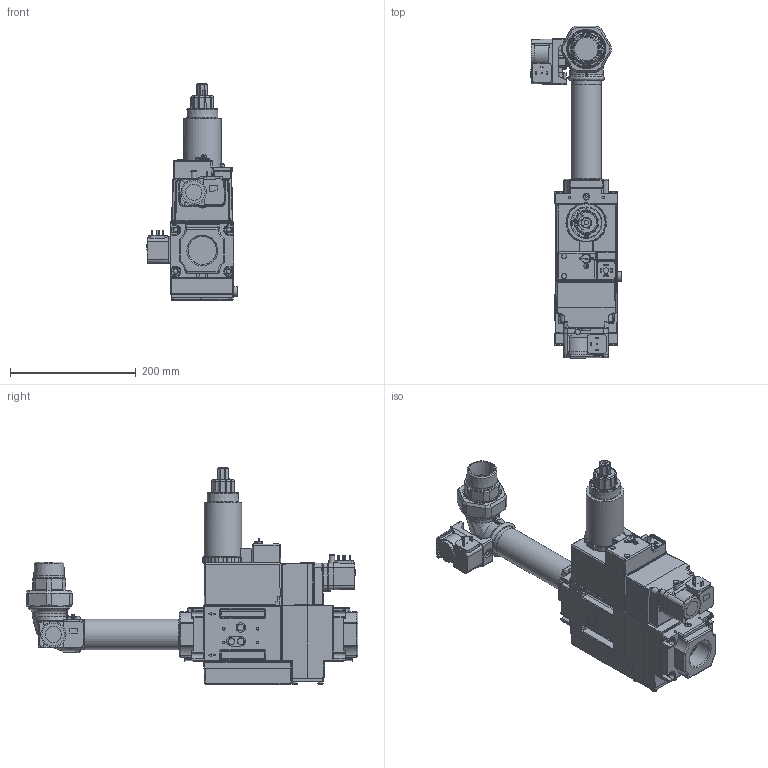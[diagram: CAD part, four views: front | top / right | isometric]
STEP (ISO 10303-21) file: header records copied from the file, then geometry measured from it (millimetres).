
FILE_DESCRIPTION (( 'STEP AP214' ), '1' );
FILE_NAME ('19990708.STEP', '2026-10-09T12:02:30', ( '' ), ( '' ), 'SwSTEP 2.0', 'SolidWorks 2025', '' );
FILE_SCHEMA (( 'AUTOMOTIVE_DESIGN' ));
Length unit declared in the file: millimetre
Products named in the file (1): 19990708
Bounding box: 144.2 x 528.35 x 344 mm (x, y, z)
Volume: 4800093.7 mm3; surface area: 499591.9 mm2
Topology: 14 solids, 14 shells, 2558 faces, 6342 edges, 3902 vertices
Faces by surface type: plane 1010, cylinder 687, bspline 596, cone 176, torus 65, sphere 24
Full cylindrical faces by diameter (mm): 0.7 x2, 1.2 x4, 1.5 x2, 1.95 x1, 2 x5, 2.45 x1, 2.5 x7, 3.7 x3, 4 x4, 4.5 x2, 4.8 x1, 6.2 x1, 6.647 x4, 6.75 x2, 6.917 x8, 7 x1, 8 x5, 8.5 x6, 8.57 x1, 8.8 x1, 9 x3, 9.73 x1, 10 x9, 10.6 x1, 10.96 x2, 11 x7, 12.5 x2, 13.16 x1, 15 x4, 15.2 x1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
Entity records: 117256 total; most frequent: CARTESIAN_POINT 64189, ORIENTED_EDGE 11798, DIRECTION 8882, EDGE_CURVE 5899, VERTEX_POINT 3793, AXIS2_PLACEMENT_3D 3088, EDGE_LOOP 3024, VECTOR 2706
